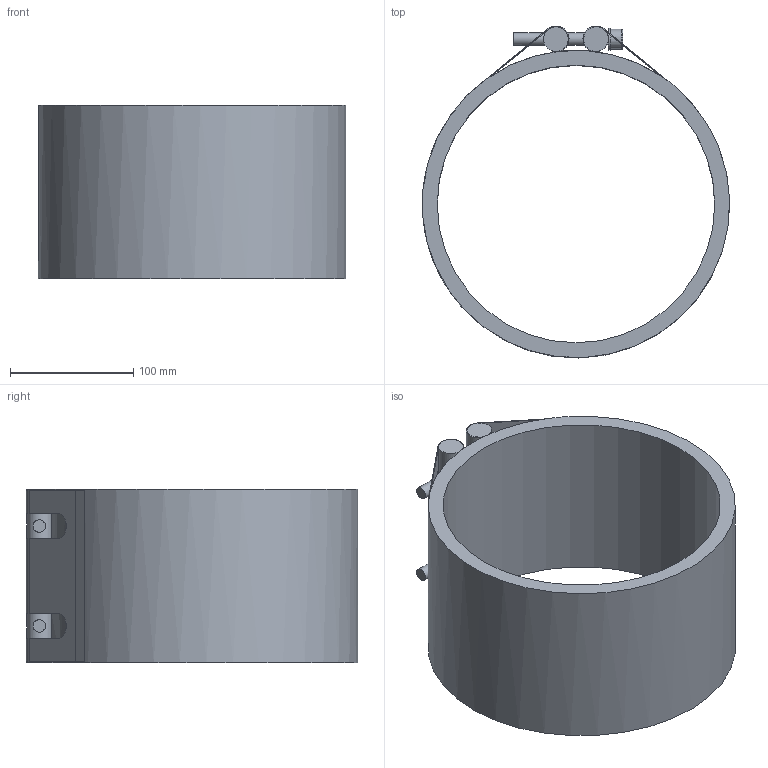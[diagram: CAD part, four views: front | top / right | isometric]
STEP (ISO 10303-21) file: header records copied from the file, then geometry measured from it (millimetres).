
FILE_DESCRIPTION(/* description */ (''),/* implementation_level */ '2;1');
FILE_NAME(/* name */ 'C:\Users\BR_11K\Desktop\STRAUB PLAST-GRIP 225.stp',/* time_stamp */ '2016-05-09T08:30:20+02:00',/* author */ ('BR_11K'),/* organization */ (''),/* preprocessor_version */ 'ST-DEVELOPER v16.1',/* originating_system */ 'Autodesk Inventor 2016',/* authorisation */ '');
FILE_SCHEMA (('AUTOMOTIVE_DESIGN { 1 0 10303 214 3 1 1 }'));
Length unit declared in the file: millimetre
Products named in the file (1): STRAUB PLAST-GRIP 225
Bounding box: 249.17 x 268.9 x 141 mm (x, y, z)
Volume: 1381513.4 mm3; surface area: 277023.6 mm2
Topology: 1 solids, 1 shells, 88 faces, 254 edges, 163 vertices
Faces by surface type: plane 56, cylinder 30, torus 2
Full cylindrical faces by diameter (mm): 10 x4, 16 x2, 18 x2, 20 x2, 225 x1, 249.2 x1
Entity records: 3052 total; most frequent: CARTESIAN_POINT 739, DIRECTION 476, ORIENTED_EDGE 460, EDGE_CURVE 226, AXIS2_PLACEMENT_3D 171, VERTEX_POINT 156, LINE 134, VECTOR 134
